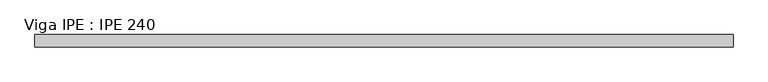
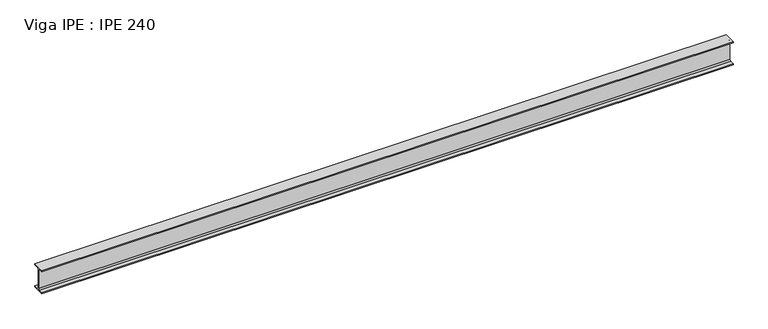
"""IFC4 building model written with IfcOpenShell, lengths in millimetres: beam geometry, Viga IPE : IPE 240."""

from ifc_helpers import new_model, si_unit, point, frame, frame_2d, origin, place, context, project, spatial, polyline, circle_curve, trimmed, segment, composite_curve, outline, extrude, source, transform, mapped, element, save


def viga_ipe_ipe_240_09b953ea(model_context):
    return source(origin(), model_context, "Body", "SweptSolid", [
        extrude(outline(composite_curve([segment(polyline([(60.0, -110.2), (60.0, -120.0), (-60.0, -120.0), (-60.0, -110.2), (-18.1, -110.2)]), True, "CONTINUOUS"), segment(trimmed(circle_curve(frame_2d((-18.1, -95.2)), 15.0), [point((-18.1, -110.2))], [point((-3.1, -95.2))], True, "CARTESIAN"), True, "CONTINUOUS"), segment(polyline([(-3.1, -95.2), (-3.1, 95.2)]), True, "CONTINUOUS"), segment(trimmed(circle_curve(frame_2d((-18.1, 95.2)), 15.0), [point((-3.1, 95.2))], [point((-18.1, 110.2))], True, "CARTESIAN"), True, "CONTINUOUS"), segment(polyline([(-18.1, 110.2), (-60.0, 110.2), (-60.0, 120.0), (60.0, 120.0), (60.0, 110.2), (18.1, 110.2)]), True, "CONTINUOUS"), segment(trimmed(circle_curve(frame_2d((18.1, 95.2)), 15.0), [point((18.1, 110.2))], [point((3.1, 95.2))], True, "CARTESIAN"), True, "CONTINUOUS"), segment(polyline([(3.1, 95.2), (3.1, -95.2)]), True, "CONTINUOUS"), segment(trimmed(circle_curve(frame_2d((18.1, -95.2)), 15.0), [point((3.1, -95.2))], [point((18.1, -110.2))], True, "CARTESIAN"), True, "CONTINUOUS"), segment(polyline([(18.1, -110.2), (60.0, -110.2)]), True, "CONTINUOUS")], self_intersect=False)), frame((-3421.5, 0.0, 0.0), z_axis=(1.0, 0.0, 0.0), x_axis=(0.0, 1.0, 0.0)), (0.0, 0.0, 1.0), 6845.0),
    ])


if __name__ == "__main__":
    model = new_model("IFC4")
    model_context = context("Model", 3, world=origin())
    ifc_project = project(units=[si_unit("LENGTHUNIT", "METRE", prefix="MILLI")], contexts=[model_context])
    site = spatial("IfcSite", under=ifc_project)
    building = spatial("IfcBuilding", under=site)
    placement = place(None, origin())
    viga_ipe_ipe_240_shape = viga_ipe_ipe_240_09b953ea(model_context)
    element("IfcBeam", 1, ObjectType="Viga IPE : IPE 240", at=placement, inside=building, context=model_context, shape_type="MappedRepresentation", body=[
        mapped(viga_ipe_ipe_240_shape, transform((0.0, 0.0, 0.0), x_axis=(1.0, 0.0, 0.0), y_axis=(0.0, 1.0, 0.0), z_axis=(0.0, 0.0, 1.0))),
    ])
    save(model, "model.ifc")
